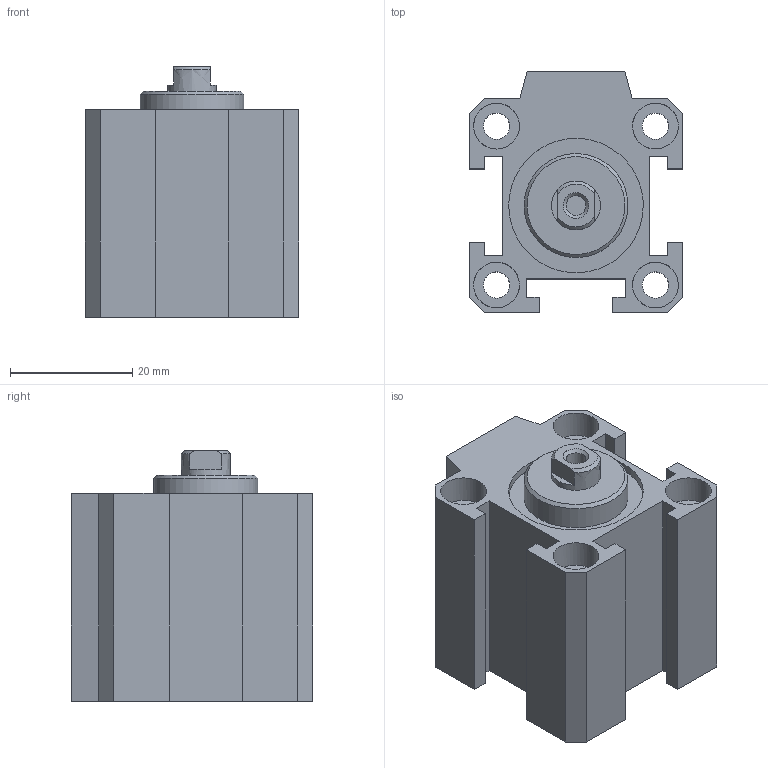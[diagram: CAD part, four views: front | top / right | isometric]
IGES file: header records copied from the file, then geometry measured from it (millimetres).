
Global section: file name: 1511_20_0000; native system: Autodesk Inventor 2014; preprocessor: unknown; author: A. Manieri; date: 20160824.110242; units: millimetre
Bounding box: 35 x 39.5 x 41 mm (x, y, z)
Volume: 32060.8 mm3; surface area: 15358.2 mm2
Topology: 2 solids, 2 shells, 91 faces, 233 edges, 164 vertices
Faces by surface type: bspline 91
